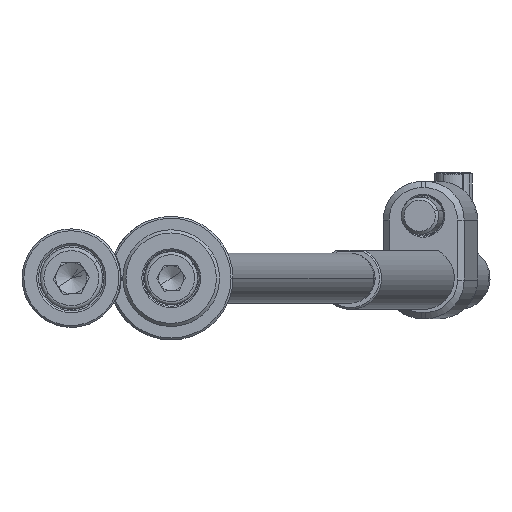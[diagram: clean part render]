
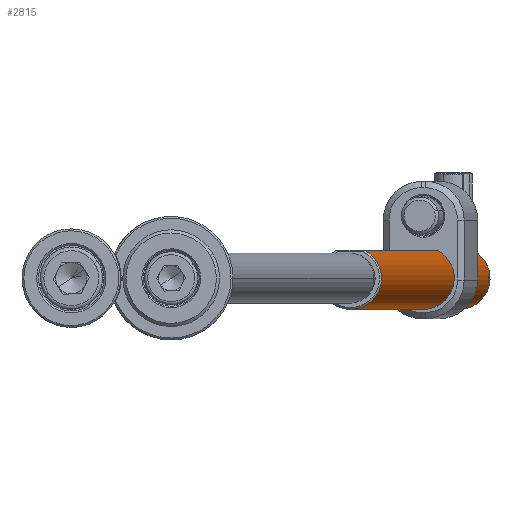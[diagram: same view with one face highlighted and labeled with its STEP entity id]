
A CAD part, front view. The second image highlights one B-rep face of the part: STEP entity #2815.
In plain terms, the highlighted cylindrical face has radius 5 mm (diameter 10 mm), a partial arc.
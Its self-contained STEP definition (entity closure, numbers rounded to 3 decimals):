
#60 = CARTESIAN_POINT ( 'NONE',  ( 0., 0., 200. ) ) ;
#262 = CARTESIAN_POINT ( 'NONE',  ( 4.014, -2.982, 9.617 ) ) ;
#349 = AXIS2_PLACEMENT_3D ( 'NONE', #60, #8824, #4659 ) ;
#352 = CARTESIAN_POINT ( 'NONE',  ( 4.376, -2.422, 8.22 ) ) ;
#425 = CARTESIAN_POINT ( 'NONE',  ( 4.258, -2.623, 8.532 ) ) ;
#501 = DIRECTION ( 'NONE',  ( 0., 0., 1. ) ) ;
#1087 = VERTEX_POINT ( 'NONE', #1806 ) ;
#1159 = FACE_OUTER_BOUND ( 'NONE', #6790, .T. ) ;
#1290 = ORIENTED_EDGE ( 'NONE', *, *, #5719, .T. ) ;
#1328 = B_SPLINE_CURVE_WITH_KNOTS ( 'NONE', 3,
 ( #11243, #6935, #6800, #3502, #8937, #5877, #2445, #2656, #11183, #10168, #262, #9091, #2361, #11322, #425, #352, #7870, #8161 ),
 .UNSPECIFIED., .F., .F.,
 ( 4, 2, 2, 2, 2, 2, 2, 2, 4 ),
 ( 0., 0.001, 0.001, 0.002, 0.002, 0.003, 0.003, 0.004, 0.005 ),
 .UNSPECIFIED. ) ;
#1705 = ORIENTED_EDGE ( 'NONE', *, *, #11688, .F. ) ;
#1806 = CARTESIAN_POINT ( 'NONE',  ( 4.5, -2.179, 12.062 ) ) ;
#2045 = VERTEX_POINT ( 'NONE', #2746 ) ;
#2361 = CARTESIAN_POINT ( 'NONE',  ( 4.107, -2.852, 9.051 ) ) ;
#2445 = CARTESIAN_POINT ( 'NONE',  ( 4.069, -2.906, 10.771 ) ) ;
#2656 = CARTESIAN_POINT ( 'NONE',  ( 4.015, -2.98, 10.396 ) ) ;
#2746 = CARTESIAN_POINT ( 'NONE',  ( 4.5, -2.179, 7.938 ) ) ;
#2815 = ADVANCED_FACE ( 'NONE', ( #1159 ), #5534, .T. ) ;
#2869 = CARTESIAN_POINT ( 'NONE',  ( -5., 0., 0.3 ) ) ;
#2964 = EDGE_CURVE ( 'NONE', #4269, #7793, #4458, .T. ) ;
#3402 = CARTESIAN_POINT ( 'NONE',  ( 4.5, -2.179, 200. ) ) ;
#3502 = CARTESIAN_POINT ( 'NONE',  ( 4.259, -2.621, 11.47 ) ) ;
#3776 = DIRECTION ( 'NONE',  ( 0., 0., -1. ) ) ;
#4269 = VERTEX_POINT ( 'NONE', #2869 ) ;
#4458 = CIRCLE ( 'NONE', #6074, 5. ) ;
#4460 = LINE ( 'NONE', #10929, #5378 ) ;
#4659 = DIRECTION ( 'NONE',  ( -1., 0., 0. ) ) ;
#4880 = DIRECTION ( 'NONE',  ( 1., 0., 0. ) ) ;
#5019 = CARTESIAN_POINT ( 'NONE',  ( 4.5, -2.179, 199.7 ) ) ;
#5302 = EDGE_CURVE ( 'NONE', #2045, #7793, #4460, .T. ) ;
#5378 = VECTOR ( 'NONE', #9776, 1000. ) ;
#5534 = CYLINDRICAL_SURFACE ( 'NONE', #349, 5. ) ;
#5719 = EDGE_CURVE ( 'NONE', #5997, #13610, #12928, .T. ) ;
#5877 = CARTESIAN_POINT ( 'NONE',  ( 4.108, -2.851, 10.952 ) ) ;
#5954 = CARTESIAN_POINT ( 'NONE',  ( 0., 0., 0.3 ) ) ;
#5997 = VERTEX_POINT ( 'NONE', #5019 ) ;
#6035 = VECTOR ( 'NONE', #7762, 1000. ) ;
#6074 = AXIS2_PLACEMENT_3D ( 'NONE', #5954, #501, #4880 ) ;
#6790 = EDGE_LOOP ( 'NONE', ( #1290, #9991, #11705, #6929, #13069, #1705 ) ) ;
#6800 = CARTESIAN_POINT ( 'NONE',  ( 4.376, -2.421, 11.781 ) ) ;
#6929 = ORIENTED_EDGE ( 'NONE', *, *, #5302, .F. ) ;
#6935 = CARTESIAN_POINT ( 'NONE',  ( 4.438, -2.307, 11.926 ) ) ;
#6987 = CARTESIAN_POINT ( 'NONE',  ( 4.5, -2.179, 0.3 ) ) ;
#7156 = CARTESIAN_POINT ( 'NONE',  ( -5., 0., 199.7 ) ) ;
#7202 = LINE ( 'NONE', #10645, #7723 ) ;
#7723 = VECTOR ( 'NONE', #12504, 1000. ) ;
#7762 = DIRECTION ( 'NONE',  ( 0., 0., -1. ) ) ;
#7793 = VERTEX_POINT ( 'NONE', #6987 ) ;
#7824 = LINE ( 'NONE', #3402, #6035 ) ;
#7870 = CARTESIAN_POINT ( 'NONE',  ( 4.438, -2.308, 8.074 ) ) ;
#7903 = AXIS2_PLACEMENT_3D ( 'NONE', #8059, #3776, #13675 ) ;
#8059 = CARTESIAN_POINT ( 'NONE',  ( 0., 0., 199.7 ) ) ;
#8161 = CARTESIAN_POINT ( 'NONE',  ( 4.5, -2.179, 7.938 ) ) ;
#8824 = DIRECTION ( 'NONE',  ( 0., 0., -1. ) ) ;
#8937 = CARTESIAN_POINT ( 'NONE',  ( 4.203, -2.709, 11.303 ) ) ;
#9091 = CARTESIAN_POINT ( 'NONE',  ( 4.068, -2.908, 9.236 ) ) ;
#9772 = EDGE_CURVE ( 'NONE', #1087, #2045, #1328, .T. ) ;
#9776 = DIRECTION ( 'NONE',  ( 0., 0., -1. ) ) ;
#9991 = ORIENTED_EDGE ( 'NONE', *, *, #11422, .T. ) ;
#10168 = CARTESIAN_POINT ( 'NONE',  ( 4., -3., 9.809 ) ) ;
#10645 = CARTESIAN_POINT ( 'NONE',  ( -5., 0., 200. ) ) ;
#10929 = CARTESIAN_POINT ( 'NONE',  ( 4.5, -2.179, 200. ) ) ;
#11183 = CARTESIAN_POINT ( 'NONE',  ( 4., -3., 10.198 ) ) ;
#11243 = CARTESIAN_POINT ( 'NONE',  ( 4.5, -2.179, 12.062 ) ) ;
#11322 = CARTESIAN_POINT ( 'NONE',  ( 4.202, -2.711, 8.701 ) ) ;
#11422 = EDGE_CURVE ( 'NONE', #13610, #4269, #7202, .T. ) ;
#11688 = EDGE_CURVE ( 'NONE', #5997, #1087, #7824, .T. ) ;
#11705 = ORIENTED_EDGE ( 'NONE', *, *, #2964, .T. ) ;
#12504 = DIRECTION ( 'NONE',  ( 0., 0., -1. ) ) ;
#12928 = CIRCLE ( 'NONE', #7903, 5. ) ;
#13069 = ORIENTED_EDGE ( 'NONE', *, *, #9772, .F. ) ;
#13610 = VERTEX_POINT ( 'NONE', #7156 ) ;
#13675 = DIRECTION ( 'NONE',  ( 1., 0., 0. ) ) ;
